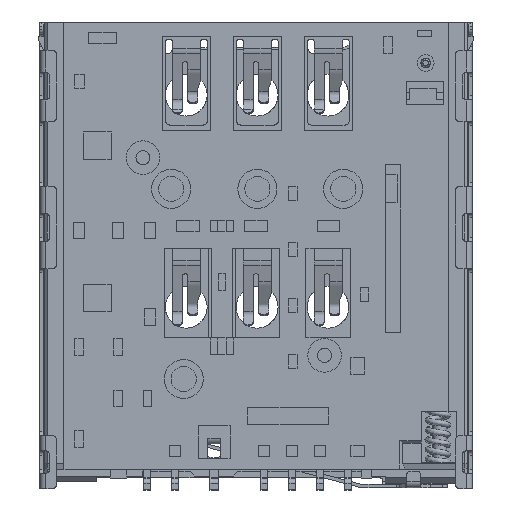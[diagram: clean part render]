
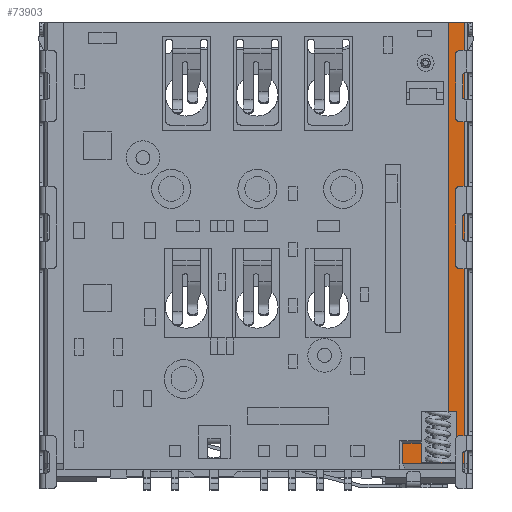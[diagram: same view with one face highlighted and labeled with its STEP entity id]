
A CAD part, front view. The second image highlights one B-rep face of the part: STEP entity #73903.
In plain terms, the highlighted planar face has unit normal (0, -1, 0).
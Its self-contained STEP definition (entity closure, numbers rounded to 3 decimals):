
#177 = DIRECTION ( 'NONE',  ( 1., 0., 0. ) ) ;
#423 = CARTESIAN_POINT ( 'NONE',  ( -1.986, 0.468, 9.39 ) ) ;
#520 = EDGE_CURVE ( 'NONE', #8054, #80546, #27043, .T. ) ;
#2371 = ORIENTED_EDGE ( 'NONE', *, *, #54661, .F. ) ;
#3823 = LINE ( 'NONE', #54053, #51359 ) ;
#3935 = DIRECTION ( 'NONE',  ( 0., 0., -1. ) ) ;
#4153 = CARTESIAN_POINT ( 'NONE',  ( 4.894, 0.468, 8.44 ) ) ;
#5291 = EDGE_CURVE ( 'NONE', #17675, #74847, #49467, .T. ) ;
#5854 = VECTOR ( 'NONE', #34889, 1000. ) ;
#6062 = EDGE_LOOP ( 'NONE', ( #81833, #78568, #25767, #64537, #2371, #59410, #70181, #12437, #51523, #57549 ) ) ;
#8054 = VERTEX_POINT ( 'NONE', #81959 ) ;
#10515 = DIRECTION ( 'NONE',  ( -1., 0., 0. ) ) ;
#12437 = ORIENTED_EDGE ( 'NONE', *, *, #5291, .F. ) ;
#16535 = LINE ( 'NONE', #35682, #75508 ) ;
#16905 = LINE ( 'NONE', #68790, #17561 ) ;
#17561 = VECTOR ( 'NONE', #10515, 1000. ) ;
#17675 = VERTEX_POINT ( 'NONE', #71637 ) ;
#18679 = DIRECTION ( 'NONE',  ( 0., 0., -1. ) ) ;
#19792 = VECTOR ( 'NONE', #54224, 1000. ) ;
#22995 = DIRECTION ( 'NONE',  ( 0., 0., 1. ) ) ;
#25767 = ORIENTED_EDGE ( 'NONE', *, *, #77664, .F. ) ;
#27043 = LINE ( 'NONE', #52984, #19792 ) ;
#29190 = VERTEX_POINT ( 'NONE', #76146 ) ;
#29242 = VERTEX_POINT ( 'NONE', #71398 ) ;
#31851 = VECTOR ( 'NONE', #39501, 1000. ) ;
#31870 = CARTESIAN_POINT ( 'NONE',  ( 4.894, 0.468, 11.19 ) ) ;
#32539 = LINE ( 'NONE', #38078, #73402 ) ;
#34889 = DIRECTION ( 'NONE',  ( 1., 0., 0. ) ) ;
#35682 = CARTESIAN_POINT ( 'NONE',  ( 5.194, 0.468, 8.44 ) ) ;
#37850 = CARTESIAN_POINT ( 'NONE',  ( 4.894, 0.468, 8.44 ) ) ;
#38078 = CARTESIAN_POINT ( 'NONE',  ( 3.604, 0.468, 10.06 ) ) ;
#38261 = CARTESIAN_POINT ( 'NONE',  ( 3.944, 0.468, 11.19 ) ) ;
#38282 = CARTESIAN_POINT ( 'NONE',  ( 5.494, 0.468, 9.34 ) ) ;
#39317 = CARTESIAN_POINT ( 'NONE',  ( 3.264, 0.468, 9.34 ) ) ;
#39501 = DIRECTION ( 'NONE',  ( 1., 0., 0. ) ) ;
#42868 = DIRECTION ( 'NONE',  ( 0., 0., 1. ) ) ;
#44642 = EDGE_CURVE ( 'NONE', #29242, #17675, #54460, .T. ) ;
#49467 = LINE ( 'NONE', #73749, #51190 ) ;
#50657 = VERTEX_POINT ( 'NONE', #56031 ) ;
#51190 = VECTOR ( 'NONE', #3935, 1000. ) ;
#51359 = VECTOR ( 'NONE', #22995, 1000. ) ;
#51454 = LINE ( 'NONE', #38261, #31851 ) ;
#51523 = ORIENTED_EDGE ( 'NONE', *, *, #44642, .F. ) ;
#52174 = EDGE_CURVE ( 'NONE', #54027, #29190, #3823, .T. ) ;
#52984 = CARTESIAN_POINT ( 'NONE',  ( 3.944, 0.468, 9.39 ) ) ;
#53599 = CARTESIAN_POINT ( 'NONE',  ( -9.566, 0.468, 25.14 ) ) ;
#53930 = PLANE ( 'NONE',  #64669 ) ;
#54027 = VERTEX_POINT ( 'NONE', #39317 ) ;
#54053 = CARTESIAN_POINT ( 'NONE',  ( 3.264, 0.468, 9.6 ) ) ;
#54224 = DIRECTION ( 'NONE',  ( 0., 0., 1. ) ) ;
#54460 = LINE ( 'NONE', #53599, #5854 ) ;
#54661 = EDGE_CURVE ( 'NONE', #29190, #80546, #32539, .T. ) ;
#55193 = DIRECTION ( 'NONE',  ( 0., 0., 1. ) ) ;
#56031 = CARTESIAN_POINT ( 'NONE',  ( 5.194, 0.468, 9.39 ) ) ;
#57549 = ORIENTED_EDGE ( 'NONE', *, *, #82852, .T. ) ;
#58675 = LINE ( 'NONE', #423, #75656 ) ;
#59410 = ORIENTED_EDGE ( 'NONE', *, *, #52174, .F. ) ;
#62977 = LINE ( 'NONE', #37850, #69598 ) ;
#64537 = ORIENTED_EDGE ( 'NONE', *, *, #520, .T. ) ;
#64669 = AXIS2_PLACEMENT_3D ( 'NONE', #4153, #80791, #55193 ) ;
#65780 = VERTEX_POINT ( 'NONE', #73779 ) ;
#66712 = FACE_OUTER_BOUND ( 'NONE', #6062, .T. ) ;
#68790 = CARTESIAN_POINT ( 'NONE',  ( 4.894, 0.468, 9.34 ) ) ;
#69598 = VECTOR ( 'NONE', #18679, 1000. ) ;
#69930 = CARTESIAN_POINT ( 'NONE',  ( 3.944, 0.468, 10.06 ) ) ;
#70181 = ORIENTED_EDGE ( 'NONE', *, *, #80284, .F. ) ;
#71398 = CARTESIAN_POINT ( 'NONE',  ( 4.894, 0.468, 25.14 ) ) ;
#71637 = CARTESIAN_POINT ( 'NONE',  ( 5.494, 0.468, 25.14 ) ) ;
#72307 = DIRECTION ( 'NONE',  ( 1., 0., 0. ) ) ;
#72853 = EDGE_CURVE ( 'NONE', #80140, #65780, #51454, .T. ) ;
#73402 = VECTOR ( 'NONE', #177, 1000. ) ;
#73749 = CARTESIAN_POINT ( 'NONE',  ( 5.494, 0.468, 8.44 ) ) ;
#73779 = CARTESIAN_POINT ( 'NONE',  ( 5.194, 0.468, 11.19 ) ) ;
#73903 = ADVANCED_FACE ( 'NONE', ( #66712 ), #53930, .F. ) ;
#74847 = VERTEX_POINT ( 'NONE', #38282 ) ;
#75041 = EDGE_CURVE ( 'NONE', #50657, #65780, #16535, .T. ) ;
#75508 = VECTOR ( 'NONE', #42868, 1000. ) ;
#75656 = VECTOR ( 'NONE', #72307, 1000. ) ;
#76146 = CARTESIAN_POINT ( 'NONE',  ( 3.264, 0.468, 10.06 ) ) ;
#77664 = EDGE_CURVE ( 'NONE', #8054, #50657, #58675, .T. ) ;
#78568 = ORIENTED_EDGE ( 'NONE', *, *, #75041, .F. ) ;
#80140 = VERTEX_POINT ( 'NONE', #31870 ) ;
#80284 = EDGE_CURVE ( 'NONE', #74847, #54027, #16905, .T. ) ;
#80546 = VERTEX_POINT ( 'NONE', #69930 ) ;
#80791 = DIRECTION ( 'NONE',  ( 0., 1., 0. ) ) ;
#81833 = ORIENTED_EDGE ( 'NONE', *, *, #72853, .T. ) ;
#81959 = CARTESIAN_POINT ( 'NONE',  ( 3.944, 0.468, 9.39 ) ) ;
#82852 = EDGE_CURVE ( 'NONE', #29242, #80140, #62977, .T. ) ;
